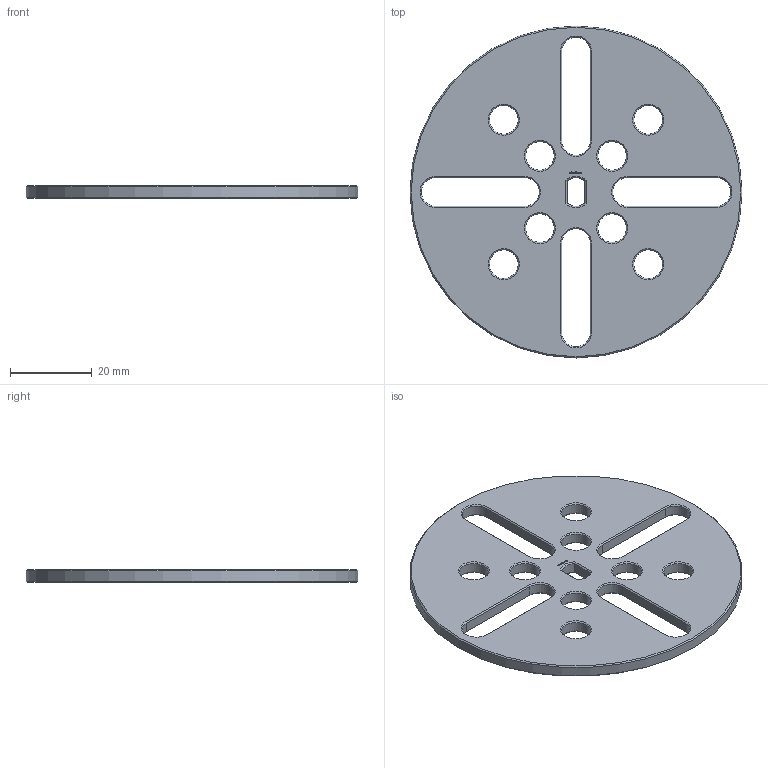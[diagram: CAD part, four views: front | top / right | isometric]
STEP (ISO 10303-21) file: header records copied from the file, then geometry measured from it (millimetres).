
FILE_DESCRIPTION(/* description */ (''),/* implementation_level */ '2;1');
FILE_NAME(/* name */ '/Users/paulokiefe/Desktop/STEMFIE/Fasteners/Washers/Fixed/Washer WSR FXD BU0.25x6.50 - SPN-WSR-0023 v1.step',/* time_stamp */ '2020-09-27T23:19:46+02:00',/* author */ (''),/* organization */ (''),/* preprocessor_version */ 'ST-DEVELOPER v18.1',/* originating_system */ 'Autodesk Translation Framework v9.3.0.1241',/* authorisation */ '');
FILE_SCHEMA (('AUTOMOTIVE_DESIGN { 1 0 10303 214 3 1 1 }'));
Length unit declared in the file: millimetre
Products named in the file (1): Washer WSR FXD BU0.25x6.50 - SPN-WSR-0023
Bounding box: 81.25 x 81.25 x 3.12 mm (x, y, z)
Volume: 12691 mm3; surface area: 10149.1 mm2
Topology: 1 solids, 1 shells, 333 faces, 899 edges, 580 vertices
Faces by surface type: plane 276, cone 38, cylinder 19
Full cylindrical faces by diameter (mm): 7 x8, 81.25 x1
Entity records: 10318 total; most frequent: CARTESIAN_POINT 1837, ORIENTED_EDGE 1798, DIRECTION 1635, EDGE_CURVE 899, LINE 815, VECTOR 815, VERTEX_POINT 580, AXIS2_PLACEMENT_3D 410
